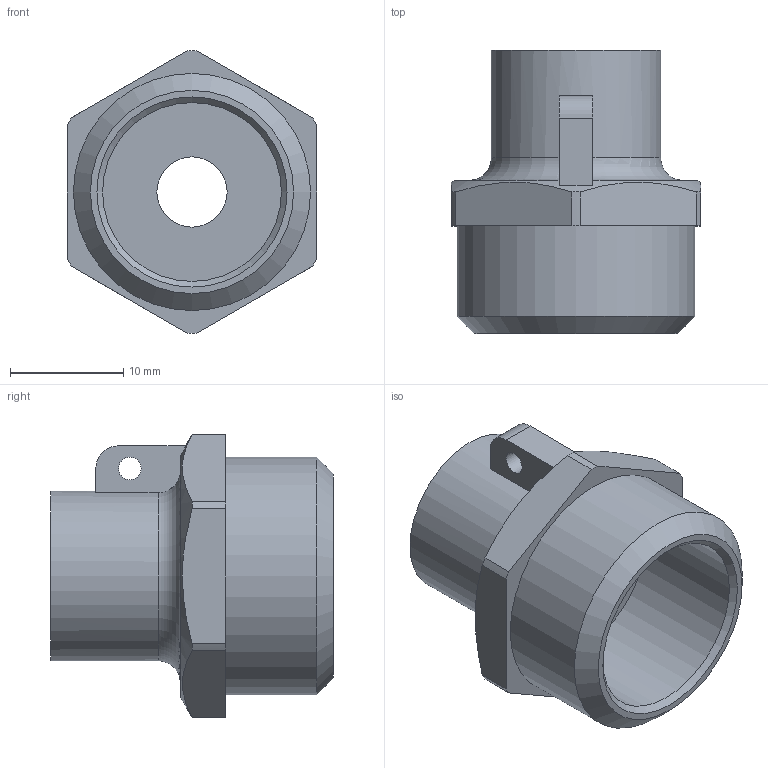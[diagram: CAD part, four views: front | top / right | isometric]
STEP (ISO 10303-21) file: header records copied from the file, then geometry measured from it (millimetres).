
FILE_DESCRIPTION(('STEP AP203'), '1');
FILE_NAME('ÂÐ.753138.001 - VTr.424.N.M004 Ïåðåõ. äàò÷. òåìï', '2024-07-03T06:20:11', ('Boss'), (''), 'C3D Converter', 'C3D Toolkit', '');
FILE_SCHEMA(('CONFIG_CONTROL_DESIGN'));
Length unit declared in the file: millimetre
Products named in the file (1): ВР.753138.001
Bounding box: 22 x 25 x 25 mm (x, y, z)
Volume: 4104.6 mm3; surface area: 3069.3 mm2
Topology: 1 solids, 1 shells, 34 faces, 84 edges, 55 vertices
Faces by surface type: plane 16, cylinder 13, cone 4, torus 1
Full cylindrical faces by diameter (mm): 2 x1, 6.2 x1, 8.917 x1, 15 x1, 15.8 x1, 20.955 x1
Entity records: 1381 total; most frequent: CARTESIAN_POINT 562, DIRECTION 166, ORIENTED_EDGE 148, EDGE_CURVE 74, AXIS2_PLACEMENT_3D 69, VERTEX_POINT 55, EDGE_LOOP 51, ADVANCED_FACE 34
